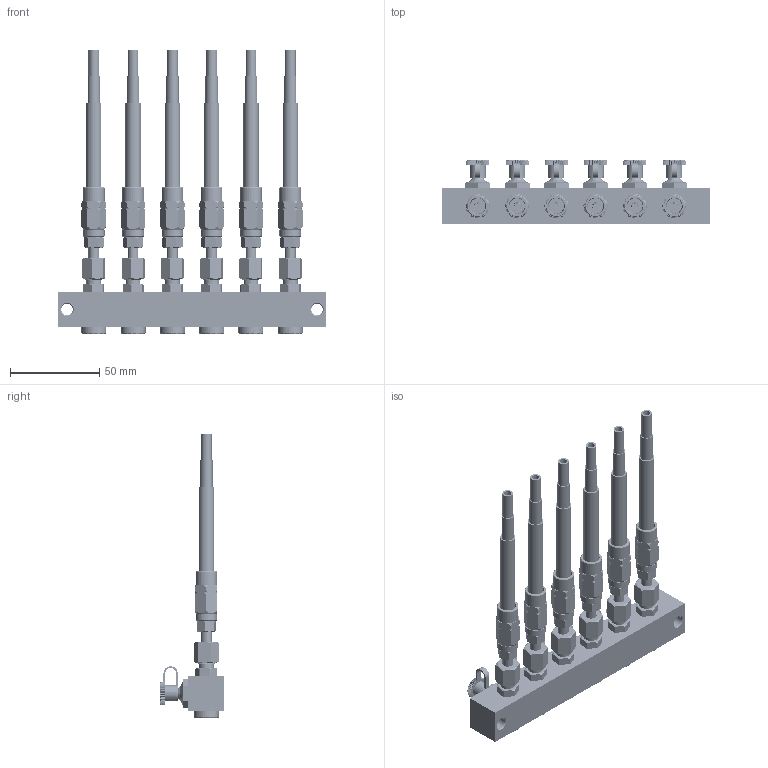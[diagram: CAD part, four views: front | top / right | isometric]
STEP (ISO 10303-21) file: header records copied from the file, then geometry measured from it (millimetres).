
FILE_DESCRIPTION (( 'STEP AP214' ), '1' );
FILE_NAME ('1460_0106_HS1.STEP', '2026-01-26T07:51:51', ( '' ), ( '' ), 'SwSTEP 2.0', 'SolidWorks 2022', '' );
FILE_SCHEMA (( 'AUTOMOTIVE_DESIGN' ));
Length unit declared in the file: millimetre
Products named in the file (19): Staubkappe_Fettnippel; POLY_6_4_gerade; Rohrstutzen; 991214010601_Koerper; Lasche_Staubkappe; 1460_01_06_ASL-06; HD_Schlauch_Aussenteil; 991214010601_Mutter; 991214010601_Schneidring; HD_Schlauch_Mittelteil; Rohrstutzen_Schraubhuelse; Schmiernippel_Staubkappe; 991214010601; HD_Schlauch_Ansicht; Staubkappe; schmiernippel_M10_1; 1460_0106_HS1; 749-M10X1-A; Schraubhülse
Assembly tree (33 placements, depth 4):
  1460_0106_HS1
    1460_01_06_ASL-06
    Rohrstutzen_Schraubhuelse  x6
      Rohrstutzen
      Schraubhülse
      HD_Schlauch_Ansicht
        HD_Schlauch_Aussenteil
        HD_Schlauch_Mittelteil
        POLY_6_4_gerade
      991214010601
        991214010601_Koerper
        991214010601_Schneidring
        991214010601_Mutter
    Schmiernippel_Staubkappe  x6
      schmiernippel_M10_1
      Staubkappe_Fettnippel
        Lasche_Staubkappe
        Staubkappe
    749-M10X1-A  x6
Bounding box: 150 x 36 x 159.6 mm (x, y, z)
Volume: 108024 mm3; surface area: 123112.5 mm2
Topology: 67 solids, 79 shells, 2294 faces, 5896 edges, 3862 vertices
Faces by surface type: plane 1170, cylinder 540, bspline 310, cone 274
Full cylindrical faces by diameter (mm): 1.5 x6, 3 x6, 4 x6, 4.5 x6, 5 x6, 6 x72, 6.01 x6, 6.2 x6, 6.495 x6, 6.5 x2, 7 x6, 7.01 x6, 7.4 x6, 7.67 x6, 8 x90, 8.3 x6, 8.4 x6, 8.6 x6, 9 x12, 9.8 x42, 10 x12, 11.9 x6, 12 x12, 14 x6
Entity records: 84537 total; most frequent: CARTESIAN_POINT 72162, ORIENTED_EDGE 2935, DIRECTION 1628, EDGE_CURVE 1469, VERTEX_POINT 1010, EDGE_LOOP 697, AXIS2_PLACEMENT_3D 611, FACE_OUTER_BOUND 599
